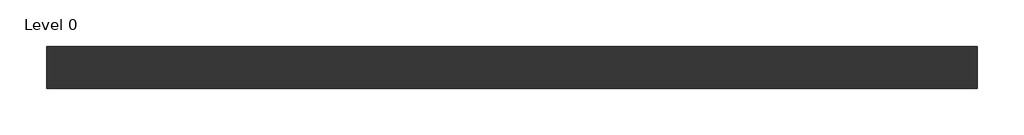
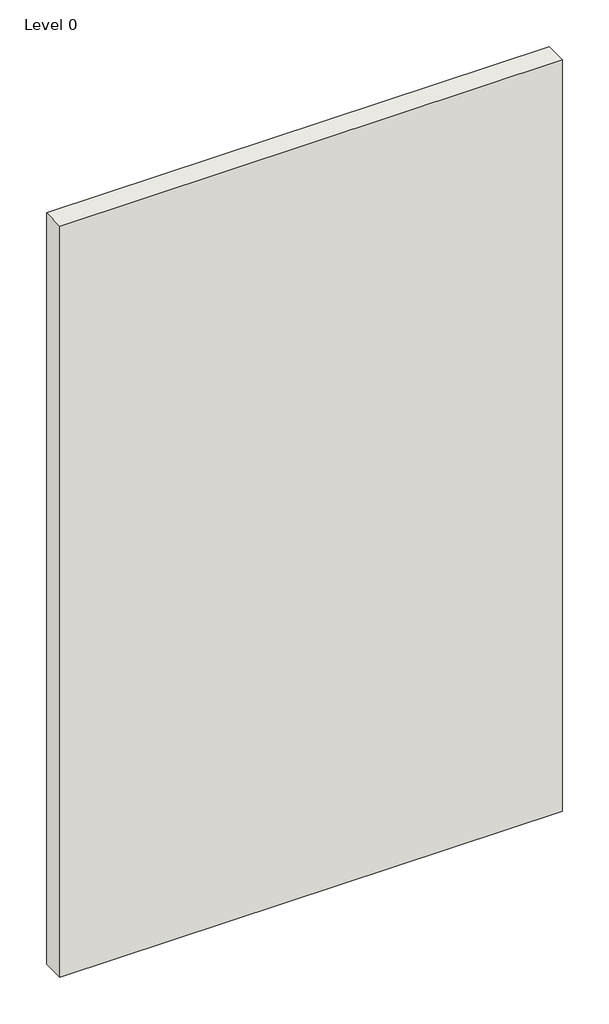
# One storey: 1 wall.
"""IFC4 building model written with IfcOpenShell, lengths in millimetres."""

from ifc_helpers import new_model, si_unit, origin, origin_with_axes, place, context, project, spatial, polyline, outline, extrude, element, save

model = new_model("IFC4")

# Units and contexts
model_context = context("Model", 3, world=origin())
ifc_project = project(units=[si_unit("LENGTHUNIT", "METRE", prefix="MILLI")], contexts=[model_context])

# Site, building, storey
site = spatial("IfcSite", under=ifc_project)
building = spatial("IfcBuilding", under=site)
storey = spatial("IfcBuildingStorey", under=building, Name="Level 0", Elevation=0.0)

# Wall
placement = place(None, origin())
element("IfcWall", 1, ObjectType="A046005 - GypWall Classic", at=placement, inside=storey, context=model_context, shape_type="SweptSolid", body=[
    extrude(outline(polyline([(1155.997948, 484.7669953), (-1944.002052, 484.7669953), (-1944.002052, 625.7669953), (1155.997948, 625.7669953), (1155.997948, 484.7669953)])), origin_with_axes(), (0.0, 0.0, 1.0), 4900.0),
])

save(model, "model.ifc")
